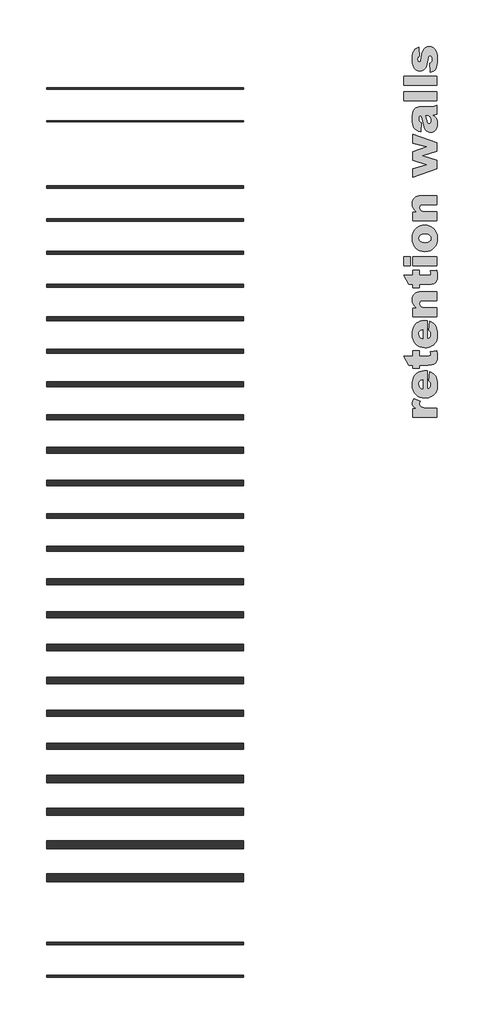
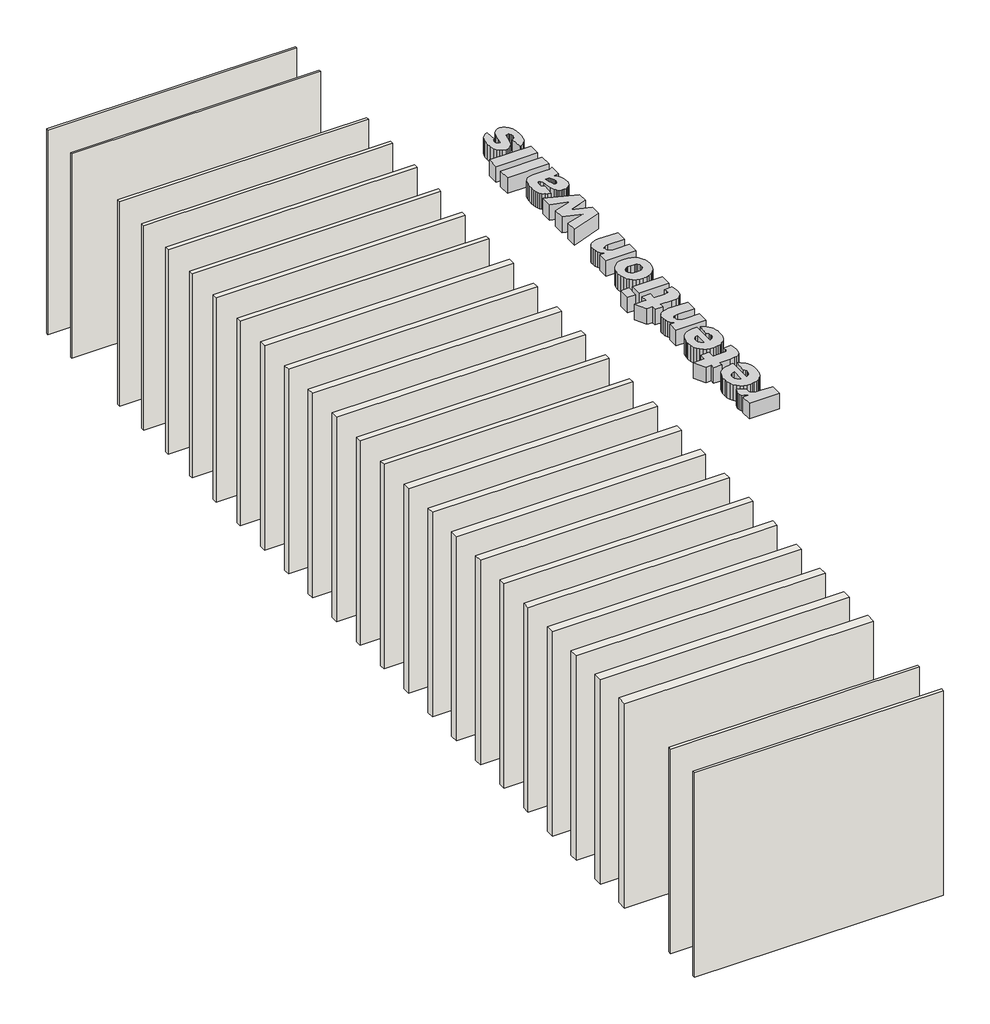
# One storey: 26 walls, 1 proxy.
"""IFC4 building model written with IfcOpenShell, lengths in millimetres."""

from ifc_helpers import new_model, si_unit, origin, origin_with_axes, place, context, project, spatial, polyline, outline, extrude, element, save

model = new_model("IFC4")

# Units and contexts
model_context = context("Model", 3, world=origin())
ifc_project = project(units=[si_unit("LENGTHUNIT", "METRE", prefix="MILLI")], contexts=[model_context])

# Site, building, storey
site = spatial("IfcSite", under=ifc_project)
building = spatial("IfcBuilding", under=site)
storey = spatial("IfcBuildingStorey", under=building, Name="faay_bottom_view_color", Elevation=0.0)

# Proxy
placement = place(None, origin())
element("IfcBuildingElementProxy", 1, Name="500 Arial Black", ObjectType="500 Arial Black", at=placement, inside=storey, context=model_context, shape_type="SweptSolid", body=[
    extrude(outline(polyline([(13408.2512641, 13687.5400867), (13408.2512641, 13815.4506259), (13466.6152347, 13815.4506259), (13433.7759271, 13834.6180585), (13413.0766317, 13854.4365328), (13402.1046648, 13876.9357668), (13398.4473425, 13904.1454788), (13403.5790827, 13936.5443759), (13418.9743033, 13971.8538122), (13516.5539602, 13928.5020965), (13508.8563499, 13906.2900867), (13506.2904798, 13889.2864102), (13511.9583719, 13864.8149029), (13528.9620484, 13846.5474396), (13548.4454277, 13837.0307423), (13574.8796342, 13830.2331014), (13608.2646679, 13826.1545168), (13648.6005288, 13824.7949886), (13770.9963621, 13824.7949886), (13770.9963621, 13687.5400867), (13408.2512641, 13687.5400867)])), origin_with_axes(), (0.0, 0.0, 1.0), 200.0),
    extrude(outline(polyline([(13623.9375386, 14393.4224396), (13623.9375386, 14118.9126357), (13647.336742, 14124.9634935), (13663.9191562, 14136.0694984), (13678.0505901, 14158.2432117), (13682.761068, 14186.1614102), (13680.5015704, 14205.2331014), (13673.7230778, 14223.2324886), (13653.3493033, 14246.3636161), (13663.1532249, 14383.6185181), (13692.4070162, 14367.5100239), (13717.2088315, 14349.8217962), (13737.5586706, 14330.5538352), (13753.4565337, 14309.7061406), (13765.4194243, 14285.7085533), (13773.9643462, 14256.9909139), (13779.0912993, 14223.5532224), (13780.8002837, 14185.3954788), (13775.6685435, 14122.703996), (13769.2538682, 14096.9591277), (13760.2733229, 14074.9481749), (13748.5067022, 14055.6658526), (13733.7338008, 14038.1068759), (13715.9546189, 14022.2712448), (13695.1691562, 14008.1589592), (13671.8944166, 13996.5646731), (13646.6474038, 13988.2830401), (13619.4281176, 13983.3140603), (13590.2365582, 13981.6577337), (13549.4554997, 13984.9943223), (13512.7434516, 13995.0040879), (13480.1004139, 14011.6870306), (13451.5263866, 14035.0431504), (13428.3043048, 14064.2777935), (13411.7171035, 14098.596306), (13401.7647828, 14137.9986881), (13398.4473425, 14182.4849396), (13399.9313345, 14218.6225392), (13404.3833106, 14250.7485732), (13411.8032708, 14278.8630416), (13422.1912151, 14302.9659445), (13435.3939571, 14323.7466201), (13451.2583106, 14341.8944065), (13469.7842757, 14357.4093039), (13490.9718523, 14370.2913122), (13515.1848578, 14380.4111804), (13542.7871097, 14387.6396578), (13573.7786078, 14391.9767442), (13608.1593523, 14393.4224396), (13623.9375386, 14393.4224396)]), holes=[polyline([(13555.3100876, 14256.1675377), (13528.2344136, 14248.6805585), (13510.1201366, 14234.4916798), (13499.8949528, 14214.1370536), (13496.4865582, 14188.1528318), (13501.6182984, 14158.396398), (13517.013519, 14135.3035671), (13533.0214847, 14124.925197), (13555.3100876, 14119.2190083), (13555.3100876, 14256.1675377)])]), origin_with_axes(), (0.0, 0.0, 1.0), 200.0),
    extrude(outline(polyline([(13270.9963621, 14618.9126357), (13408.2512641, 14618.9126357), (13408.2512641, 14697.3440083), (13506.2904798, 14697.3440083), (13506.2904798, 14618.9126357), (13639.1029798, 14618.9126357), (13658.9788989, 14619.9849396), (13670.8125386, 14623.2018514), (13679.7739356, 14632.2398416), (13682.761068, 14646.1797926), (13680.4632739, 14663.8728073), (13673.5698915, 14687.5400867), (13769.6176856, 14697.3440083), (13778.0046342, 14648.630773), (13780.8002837, 14603.2876357), (13777.4110374, 14559.3614715), (13767.2432984, 14528.68592), (13750.1630288, 14507.7759935), (13726.0361905, 14493.1467043), (13689.7884883, 14484.5299764), (13636.3456268, 14481.6577337), (13506.2904798, 14481.6577337), (13506.2904798, 14432.6381259), (13408.2512641, 14432.6381259), (13408.2512641, 14481.6577337), (13342.0747935, 14481.6577337), (13270.9963621, 14618.9126357)])), origin_with_axes(), (0.0, 0.0, 1.0), 200.0),
    extrude(outline(polyline([(13623.9375386, 15158.128322), (13623.9375386, 14883.6185181), (13647.336742, 14889.6693759), (13663.9191562, 14900.7753808), (13678.0505901, 14922.949094), (13682.761068, 14950.8672926), (13680.5015704, 14969.9389837), (13673.7230778, 14987.938371), (13653.3493033, 15011.0694984), (13663.1532249, 15148.3244004), (13692.4070162, 15132.2159062), (13717.2088315, 15114.5276786), (13737.5586706, 15095.2597175), (13753.4565337, 15074.412023), (13765.4194243, 15050.4144356), (13773.9643462, 15021.6967962), (13779.0912993, 14988.2591048), (13780.8002837, 14950.1013612), (13775.6685435, 14887.4098783), (13769.2538682, 14861.6650101), (13760.2733229, 14839.6540573), (13748.5067022, 14820.371735), (13733.7338008, 14802.8127583), (13715.9546189, 14786.9771271), (13695.1691562, 14772.8648416), (13671.8944166, 14761.2705554), (13646.6474038, 14752.9889225), (13619.4281176, 14748.0199427), (13590.2365582, 14746.3636161), (13549.4554997, 14749.7002046), (13512.7434516, 14759.7099703), (13480.1004139, 14776.392913), (13451.5263866, 14799.7490328), (13428.3043048, 14828.9836758), (13411.7171035, 14863.3021884), (13401.7647828, 14902.7045704), (13398.4473425, 14947.190822), (13399.9313345, 14983.3284215), (13404.3833106, 15015.4544556), (13411.8032708, 15043.568924), (13422.1912151, 15067.6718269), (13435.3939571, 15088.4525024), (13451.2583106, 15106.6002889), (13469.7842757, 15122.1151863), (13490.9718523, 15134.9971945), (13515.1848578, 15145.1170628), (13542.7871097, 15152.3455401), (13573.7786078, 15156.6826265), (13608.1593523, 15158.128322), (13623.9375386, 15158.128322)]), holes=[polyline([(13555.3100876, 15020.87342), (13528.2344136, 15013.3864408), (13510.1201366, 14999.1975622), (13499.8949528, 14978.8429359), (13496.4865582, 14952.8587141), (13501.6182984, 14923.1022803), (13517.013519, 14900.0094494), (13533.0214847, 14889.6310793), (13555.3100876, 14883.9248906), (13555.3100876, 15020.87342)])]), origin_with_axes(), (0.0, 0.0, 1.0), 200.0),
    extrude(outline(polyline([(13408.2512641, 15216.9518514), (13408.2512641, 15344.7092043), (13465.696117, 15344.7092043), (13434.6950447, 15373.986931), (13413.9957494, 15403.6093269), (13402.3344442, 15436.6401173), (13398.4473425, 15476.1430279), (13400.6015245, 15503.4532684), (13407.0640704, 15527.6327644), (13417.8349804, 15548.6815159), (13432.9142543, 15566.599523), (13452.493375, 15580.9080784), (13476.7638253, 15591.1284752), (13505.7256054, 15597.2607132), (13539.3787151, 15599.3047926), (13770.9963621, 15599.3047926), (13770.9963621, 15462.0498906), (13569.4032249, 15462.0498906), (13539.9723119, 15458.7946823), (13520.6133964, 15449.0290573), (13509.8712089, 15433.4040573), (13506.2904798, 15412.5707239), (13511.1158474, 15388.9991859), (13525.5919503, 15370.3679053), (13537.1670882, 15363.2974013), (13552.5910312, 15358.2470413), (13594.9853327, 15354.2067533), (13770.9963621, 15354.2067533), (13770.9963621, 15216.9518514), (13408.2512641, 15216.9518514)])), origin_with_axes(), (0.0, 0.0, 1.0), 200.0),
    extrude(outline(polyline([(13270.9963621, 15844.4028318), (13408.2512641, 15844.4028318), (13408.2512641, 15922.8342043), (13506.2904798, 15922.8342043), (13506.2904798, 15844.4028318), (13639.1029798, 15844.4028318), (13658.9788989, 15845.4751357), (13670.8125386, 15848.6920475), (13679.7739356, 15857.7300377), (13682.761068, 15871.6699886), (13680.4632739, 15889.3630033), (13673.5698915, 15913.0302828), (13769.6176856, 15922.8342043), (13778.0046342, 15874.120969), (13780.8002837, 15828.7778318), (13777.4110374, 15784.8516676), (13767.2432984, 15754.1761161), (13750.1630288, 15733.2661896), (13726.0361905, 15718.6369004), (13689.7884883, 15710.0201725), (13636.3456268, 15707.1479298), (13506.2904798, 15707.1479298), (13506.2904798, 15658.128322), (13408.2512641, 15658.128322), (13408.2512641, 15707.1479298), (13342.0747935, 15707.1479298), (13270.9963621, 15844.4028318)])), origin_with_axes(), (0.0, 0.0, 1.0), 200.0),
    extrude(outline(polyline([(13270.9963621, 15991.4616553), (13270.9963621, 16128.7165573), (13369.0355778, 16128.7165573), (13369.0355778, 15991.4616553), (13270.9963621, 15991.4616553)])), origin_with_axes(), (0.0, 0.0, 1.0), 200.0),
    extrude(outline(polyline([(13408.2512641, 15991.4616553), (13408.2512641, 16128.7165573), (13770.9963621, 16128.7165573), (13770.9963621, 15991.4616553), (13408.2512641, 15991.4616553)])), origin_with_axes(), (0.0, 0.0, 1.0), 200.0),
    extrude(outline(polyline([(13590.696117, 16207.1479298), (13550.6474804, 16210.5228149), (13514.2944626, 16220.6474703), (13481.6370637, 16237.5218958), (13452.6752837, 16261.1460916), (13428.9505594, 16290.5243468), (13412.0043278, 16324.6609507), (13401.8365888, 16363.5559032), (13398.4473425, 16407.2092043), (13402.4301856, 16456.5351847), (13414.3787151, 16499.4273416), (13434.2929307, 16535.8856749), (13462.1728327, 16565.9101847), (13489.3155257, 16584.8095413), (13519.4262028, 16598.3090818), (13552.5048639, 16606.408806), (13588.5515092, 16609.1087141), (13628.8490735, 16605.7625515), (13665.3361293, 16595.7240634), (13698.0126764, 16578.99325), (13726.8787151, 16555.5701112), (13750.4694013, 16526.2397267), (13767.3198915, 16491.7871761), (13777.4301856, 16452.2124595), (13780.8002837, 16407.5155769), (13778.0046342, 16367.3329022), (13769.6176856, 16331.1905156), (13755.6394381, 16299.088417), (13736.0698915, 16271.0266063), (13706.1889939, 16243.0796853), (13671.9997322, 16223.1175989), (13633.5021066, 16211.1403471), (13590.696117, 16207.1479298)]), holes=[polyline([(13589.4706268, 16344.4028318), (13630.9075141, 16348.9409752), (13646.9729246, 16354.6136544), (13659.9363131, 16362.5554053), (13677.0548793, 16383.0632178), (13682.761068, 16408.2815083), (13677.1314724, 16433.652985), (13660.2426856, 16454.0076112), (13647.2888713, 16461.8153241), (13630.9458106, 16467.3922619), (13588.0919503, 16471.8538122), (13547.727367, 16467.3539654), (13531.968329, 16461.7291568), (13519.1581268, 16453.8544249), (13502.1544503, 16433.6912815), (13496.4865582, 16409.2006259), (13502.2310435, 16383.4844801), (13519.4644994, 16362.7085916), (13532.4566103, 16354.6998217), (13548.4550018, 16348.9792717), (13589.4706268, 16344.4028318)])]), origin_with_axes(), (0.0, 0.0, 1.0), 200.0),
    extrude(outline(polyline([(13408.2512641, 16677.7361651), (13408.2512641, 16805.4935181), (13465.696117, 16805.4935181), (13434.6950447, 16834.7712448), (13413.9957494, 16864.3936406), (13402.3344442, 16897.424431), (13398.4473425, 16936.9273416), (13400.6015245, 16964.2375821), (13407.0640704, 16988.4170781), (13417.8349804, 17009.4658296), (13432.9142543, 17027.3838367), (13452.493375, 17041.6923921), (13476.7638253, 17051.9127889), (13505.7256054, 17058.0450269), (13539.3787151, 17060.0891063), (13770.9963621, 17060.0891063), (13770.9963621, 16922.8342043), (13569.4032249, 16922.8342043), (13539.9723119, 16919.578996), (13520.6133964, 16909.813371), (13509.8712089, 16894.188371), (13506.2904798, 16873.3550377), (13511.1158474, 16849.7834997), (13525.5919503, 16831.152219), (13537.1670882, 16824.0817151), (13552.5910312, 16819.0313551), (13594.9853327, 16814.9910671), (13770.9963621, 16814.9910671), (13770.9963621, 16677.7361651), (13408.2512641, 16677.7361651)])), origin_with_axes(), (0.0, 0.0, 1.0), 200.0),
    extrude(outline(polyline([(13408.2512641, 17334.5989102), (13408.2512641, 17469.8623906), (13621.1801856, 17528.0731749), (13408.2512641, 17597.1601847), (13408.2512641, 17727.8280769), (13621.946117, 17799.2128808), (13408.2512641, 17856.3513612), (13408.2512641, 17991.4616553), (13770.9963621, 17858.8023416), (13770.9963621, 17735.9469494), (13552.7059209, 17663.0302828), (13770.9963621, 17592.2582239), (13770.9963621, 17468.4837141), (13408.2512641, 17334.5989102)])), origin_with_axes(), (0.0, 0.0, 1.0), 200.0),
    extrude(outline(polyline([(13535.7022445, 18167.9322435), (13525.8983229, 18030.6773416), (13490.3399589, 18039.6770352), (13463.3217298, 18051.9702337), (13442.0479859, 18068.9739102), (13423.7230778, 18092.1050377), (13413.09578, 18114.3361958), (13405.1109454, 18143.652219), (13400.1132432, 18177.8702031), (13398.4473425, 18214.8072435), (13400.2089847, 18270.1840818), (13405.4939111, 18313.4592043), (13416.3318401, 18347.581447), (13434.7524896, 18375.4996455), (13453.4412151, 18391.1054972), (13478.5637641, 18402.9965818), (13506.2521832, 18410.5218575), (13532.638519, 18413.0302828), (13693.4841072, 18413.0302828), (13733.7720974, 18416.2471945), (13770.9963621, 18430.4935181), (13770.9963621, 18298.9065083), (13743.6526121, 18288.5664347), (13714.1642543, 18283.7410671), (13742.6951979, 18257.469621), (13761.8051856, 18231.3513612), (13776.0515092, 18192.7867166), (13780.8002837, 18148.4775867), (13778.9620484, 18119.0370996), (13773.4473425, 18093.3688244), (13764.256166, 18071.4727613), (13751.388519, 18053.3489102), (13735.8209638, 18039.1408833), (13718.5300631, 18028.9922926), (13699.5158168, 18022.9031382), (13678.7782249, 18020.87342), (13659.457606, 18022.3382638), (13641.9369258, 18026.732795), (13626.2161844, 18034.0570138), (13612.2953817, 18044.31092), (13600.1074988, 18058.4327797), (13589.5855165, 18077.514045), (13573.5392543, 18130.5547926), (13551.8633964, 18228.3642288), (13535.7022445, 18275.7753808), (13517.2050018, 18273.4009935), (13505.2181758, 18266.2778318), (13498.6694626, 18253.2187019), (13496.4865582, 18233.0364102), (13498.9758352, 18206.2671087), (13506.443666, 18187.2337141), (13517.6645606, 18176.4340818), (13535.7022445, 18167.9322435)]), holes=[polyline([(13604.3296954, 18275.7753808), (13618.1164602, 18219.5560181), (13626.6182984, 18187.0039347), (13634.9669503, 18169.0045475), (13644.1198302, 18160.8473783), (13654.4216072, 18158.128322), (13665.8148364, 18160.8282301), (13674.8719749, 18168.9279543), (13680.7887947, 18182.2360119), (13682.761068, 18200.56092), (13680.6164602, 18221.6814776), (13674.1826366, 18241.2318759), (13664.6659393, 18257.2781382), (13653.2727102, 18267.8862877), (13639.0838315, 18273.8031075), (13621.1801856, 18275.7753808), (13604.3296954, 18275.7753808)])]), origin_with_axes(), (0.0, 0.0, 1.0), 200.0),
    extrude(outline(polyline([(13270.9963621, 18501.2655769), (13270.9963621, 18638.5204788), (13770.9963621, 18638.5204788), (13770.9963621, 18501.2655769), (13270.9963621, 18501.2655769)])), origin_with_axes(), (0.0, 0.0, 1.0), 200.0),
    extrude(outline(polyline([(13270.9963621, 18736.5596945), (13270.9963621, 18873.8145965), (13770.9963621, 18873.8145965), (13770.9963621, 18736.5596945), (13270.9963621, 18736.5596945)])), origin_with_axes(), (0.0, 0.0, 1.0), 200.0),
    extrude(outline(polyline([(13672.9571464, 18932.6381259), (13663.1532249, 19069.8930279), (13681.2675018, 19079.9650254), (13693.3309209, 19093.3305279), (13700.1094136, 19110.8703563), (13702.3689111, 19133.4653318), (13699.4200753, 19157.7070597), (13690.573568, 19175.8979298), (13680.7696464, 19184.6295475), (13668.821117, 19187.5400867), (13655.7619871, 19184.8976234), (13645.9963621, 19176.9702337), (13639.6774283, 19159.1623293), (13632.0564111, 19120.750871), (13620.0312886, 19058.9785058), (13608.7720974, 19019.4947435), (13594.1428082, 18993.3764837), (13572.0073915, 18971.7006259), (13544.3189724, 18957.1096333), (13513.0306758, 18952.245969), (13479.2531023, 18957.5308955), (13450.5306758, 18973.3856749), (13427.6484761, 18998.4890757), (13411.3915827, 19031.5198661), (13401.6834026, 19074.8524335), (13398.4473425, 19130.8611651), (13400.9557677, 19187.9804972), (13408.4810435, 19227.90467), (13421.2720974, 19256.6462448), (13439.5778572, 19280.2177828), (13464.3365888, 19299.4043636), (13496.4865582, 19314.9910671), (13506.2904798, 19177.7361651), (13494.0738744, 19171.800197), (13485.6103327, 19162.8770965), (13479.0616195, 19147.2520965), (13476.8787151, 19128.563371), (13478.9275815, 19110.9469494), (13485.0741807, 19098.8452337), (13494.1696158, 19091.8369617), (13505.0649896, 19089.500871), (13516.5156636, 19091.4156994), (13524.826019, 19097.1601847), (13531.2215459, 19114.4319372), (13536.9277347, 19150.9285671), (13546.1572077, 19211.7052215), (13558.5269994, 19254.6356749), (13575.4540827, 19284.6601847), (13598.3554307, 19306.7190083), (13625.5076979, 19320.2759935), (13655.1875386, 19324.7949886), (13686.131166, 19319.969621), (13716.1556758, 19305.4935181), (13742.7143462, 19280.639045), (13763.2604552, 19244.6785671), (13776.4153266, 19195.6589592), (13780.8002837, 19131.6270965), (13779.0482157, 19084.7137999), (13773.7920116, 19045.0768514), (13765.0316715, 19012.7162509), (13752.7671954, 18987.6319984), (13737.2666593, 18968.1103226), (13718.7981391, 18952.4374519), (13697.3616348, 18940.6133863), (13672.9571464, 18932.6381259)])), origin_with_axes(), (0.0, 0.0, 1.0), 200.0),
])

# Walls
element("IfcWall", 2, ObjectType="Faay_22_PG90_WR1x", at=placement, inside=storey, context=model_context, shape_type="SweptSolid", body=[
    extrude(outline(polyline([(10830.9340793, 8643.8247672), (7830.9340793, 8643.8247672), (7830.9340793, 8733.8247672), (10830.9340793, 8733.8247672), (10830.9340793, 8643.8247672)])), origin_with_axes(), (0.0, 0.0, 1.0), 2605.0),
])
element("IfcWall", 3, ObjectType="Faay_22_VP35_", at=placement, inside=storey, context=model_context, shape_type="SweptSolid", body=[
    extrude(outline(polyline([(10830.9340793, 5671.3247672), (7830.9340793, 5671.3247672), (7830.9340793, 5706.3247672), (10830.9340793, 5706.3247672), (10830.9340793, 5671.3247672)])), origin_with_axes(), (0.0, 0.0, 1.0), 2605.0),
])
element("IfcWall", 4, ObjectType="Faay_22_PG70_GRE_", at=placement, inside=storey, context=model_context, shape_type="SweptSolid", body=[
    extrude(outline(polyline([(10830.9340793, 10138.8247672), (7830.9340793, 10138.8247672), (7830.9340793, 10238.8247672), (10830.9340793, 10238.8247672), (10830.9340793, 10138.8247672)])), origin_with_axes(), (0.0, 0.0, 1.0), 2605.0),
])
element("IfcWall", 5, ObjectType="Faay_22_PG60_", at=placement, inside=storey, context=model_context, shape_type="SweptSolid", body=[
    extrude(outline(polyline([(10830.9340793, 15158.8247672), (7830.9340793, 15158.8247672), (7830.9340793, 15218.8247672), (10830.9340793, 15218.8247672), (10830.9340793, 15158.8247672)])), origin_with_axes(), (0.0, 0.0, 1.0), 2605.0),
])
element("IfcWall", 6, ObjectType="Faay_22_PG50_", at=placement, inside=storey, context=model_context, shape_type="SweptSolid", body=[
    extrude(outline(polyline([(10830.9340793, 16163.8247672), (7830.9340793, 16163.8247672), (7830.9340793, 16213.8247672), (10830.9340793, 16213.8247672), (10830.9340793, 16163.8247672)])), origin_with_axes(), (0.0, 0.0, 1.0), 2605.0),
])
element("IfcWall", 7, ObjectType="Faay_22_PG40_", at=placement, inside=storey, context=model_context, shape_type="SweptSolid", body=[
    extrude(outline(polyline([(10830.9340793, 17168.8247672), (7830.9340793, 17168.8247672), (7830.9340793, 17208.8247672), (10830.9340793, 17208.8247672), (10830.9340793, 17168.8247672)])), origin_with_axes(), (0.0, 0.0, 1.0), 2605.0),
])
element("IfcWall", 8, ObjectType="Faay_22_PG60_XPS_WR1x", at=placement, inside=storey, context=model_context, shape_type="SweptSolid", body=[
    extrude(outline(polyline([(10830.9340793, 13648.8247672), (7830.9340793, 13648.8247672), (7830.9340793, 13728.8247672), (10830.9340793, 13728.8247672), (10830.9340793, 13648.8247672)])), origin_with_axes(), (0.0, 0.0, 1.0), 2605.0),
])
element("IfcWall", 9, ObjectType="Faay_22_PG60_GRE_", at=placement, inside=storey, context=model_context, shape_type="SweptSolid", body=[
    extrude(outline(polyline([(10830.9340793, 13143.8247672), (7830.9340793, 13143.8247672), (7830.9340793, 13233.8247672), (10830.9340793, 13233.8247672), (10830.9340793, 13143.8247672)])), origin_with_axes(), (0.0, 0.0, 1.0), 2605.0),
])
element("IfcWall", 10, ObjectType="Faay_22_PG70_", at=placement, inside=storey, context=model_context, shape_type="SweptSolid", body=[
    extrude(outline(polyline([(10830.9340793, 12153.8247672), (7830.9340793, 12153.8247672), (7830.9340793, 12223.8247672), (10830.9340793, 12223.8247672), (10830.9340793, 12153.8247672)])), origin_with_axes(), (0.0, 0.0, 1.0), 2605.0),
])
element("IfcWall", 11, ObjectType="Faay_22_PG70_XPS_ WR1x", at=placement, inside=storey, context=model_context, shape_type="SweptSolid", body=[
    extrude(outline(polyline([(10830.9340793, 10643.8247672), (7830.9340793, 10643.8247672), (7830.9340793, 10733.8247672), (10830.9340793, 10733.8247672), (10830.9340793, 10643.8247672)])), origin_with_axes(), (0.0, 0.0, 1.0), 2605.0),
])
element("IfcWall", 12, ObjectType="Faay_22_PG90_XPS_WR1x", at=placement, inside=storey, context=model_context, shape_type="SweptSolid", body=[
    extrude(outline(polyline([(10830.9340793, 7633.8247672), (7830.9340793, 7633.8247672), (7830.9340793, 7743.8247672), (10830.9340793, 7743.8247672), (10830.9340793, 7633.8247672)])), origin_with_axes(), (0.0, 0.0, 1.0), 2605.0),
])
element("IfcWall", 13, ObjectType="Faay_22_PG90_GRE_WR1x", at=placement, inside=storey, context=model_context, shape_type="SweptSolid", body=[
    extrude(outline(polyline([(10830.9340793, 6628.8247672), (7830.9340793, 6628.8247672), (7830.9340793, 6748.8247672), (10830.9340793, 6748.8247672), (10830.9340793, 6628.8247672)])), origin_with_axes(), (0.0, 0.0, 1.0), 2605.0),
])
element("IfcWall", 14, ObjectType="Faay_22_GP22_", at=placement, inside=storey, context=model_context, shape_type="SweptSolid", body=[
    extrude(outline(polyline([(10830.9340793, 18677.8247672), (7830.9340793, 18677.8247672), (7830.9340793, 18699.8247672), (10830.9340793, 18699.8247672), (10830.9340793, 18677.8247672)])), origin_with_axes(), (0.0, 0.0, 1.0), 2605.0),
])
element("IfcWall", 15, ObjectType="Faay_22_GP22_WR1x", at=placement, inside=storey, context=model_context, shape_type="SweptSolid", body=[
    extrude(outline(polyline([(10830.9340793, 18177.8247672), (7830.9340793, 18177.8247672), (7830.9340793, 18199.8247672), (10830.9340793, 18199.8247672), (10830.9340793, 18177.8247672)])), origin_with_axes(), (0.0, 0.0, 1.0), 2605.0),
])
element("IfcWall", 16, ObjectType="Faay_22_PG60_WR1x", at=placement, inside=storey, context=model_context, shape_type="SweptSolid", body=[
    extrude(outline(polyline([(10830.9340793, 14658.8247672), (7830.9340793, 14658.8247672), (7830.9340793, 14718.8247672), (10830.9340793, 14718.8247672), (10830.9340793, 14658.8247672)])), origin_with_axes(), (0.0, 0.0, 1.0), 2605.0),
])
element("IfcWall", 17, ObjectType="Faay_22_PG50_WR1x", at=placement, inside=storey, context=model_context, shape_type="SweptSolid", body=[
    extrude(outline(polyline([(10830.9340793, 15663.8247672), (7830.9340793, 15663.8247672), (7830.9340793, 15713.8247672), (10830.9340793, 15713.8247672), (10830.9340793, 15663.8247672)])), origin_with_axes(), (0.0, 0.0, 1.0), 2605.0),
])
element("IfcWall", 18, ObjectType="Faay_22_PG40_WR1x", at=placement, inside=storey, context=model_context, shape_type="SweptSolid", body=[
    extrude(outline(polyline([(10830.9340793, 16668.8247672), (7830.9340793, 16668.8247672), (7830.9340793, 16708.8247672), (10830.9340793, 16708.8247672), (10830.9340793, 16668.8247672)])), origin_with_axes(), (0.0, 0.0, 1.0), 2605.0),
])
element("IfcWall", 19, ObjectType="Faay_22_PG60_XPS_", at=placement, inside=storey, context=model_context, shape_type="SweptSolid", body=[
    extrude(outline(polyline([(10830.9340793, 14148.8247672), (7830.9340793, 14148.8247672), (7830.9340793, 14228.8247672), (10830.9340793, 14228.8247672), (10830.9340793, 14148.8247672)])), origin_with_axes(), (0.0, 0.0, 1.0), 2605.0),
])
element("IfcWall", 20, ObjectType="Faay_22_PG60_GRE_WR1x", at=placement, inside=storey, context=model_context, shape_type="SweptSolid", body=[
    extrude(outline(polyline([(10830.9340793, 12643.8247672), (7830.9340793, 12643.8247672), (7830.9340793, 12733.8247672), (10830.9340793, 12733.8247672), (10830.9340793, 12643.8247672)])), origin_with_axes(), (0.0, 0.0, 1.0), 2605.0),
])
element("IfcWall", 21, ObjectType="Faay_22_PG70_WR1x", at=placement, inside=storey, context=model_context, shape_type="SweptSolid", body=[
    extrude(outline(polyline([(10830.9340793, 11653.8247672), (7830.9340793, 11653.8247672), (7830.9340793, 11723.8247672), (10830.9340793, 11723.8247672), (10830.9340793, 11653.8247672)])), origin_with_axes(), (0.0, 0.0, 1.0), 2605.0),
])
element("IfcWall", 22, ObjectType="Faay_22_PG90_", at=placement, inside=storey, context=model_context, shape_type="SweptSolid", body=[
    extrude(outline(polyline([(10830.9340793, 9143.8247672), (7830.9340793, 9143.8247672), (7830.9340793, 9233.8247672), (10830.9340793, 9233.8247672), (10830.9340793, 9143.8247672)])), origin_with_axes(), (0.0, 0.0, 1.0), 2605.0),
])
element("IfcWall", 23, ObjectType="Faay_22_PG70_GRE_WR1x", at=placement, inside=storey, context=model_context, shape_type="SweptSolid", body=[
    extrude(outline(polyline([(10830.9340793, 9638.8247672), (7830.9340793, 9638.8247672), (7830.9340793, 9738.8247672), (10830.9340793, 9738.8247672), (10830.9340793, 9638.8247672)])), origin_with_axes(), (0.0, 0.0, 1.0), 2605.0),
])
element("IfcWall", 24, ObjectType="Faay_22_PG70_XPS_", at=placement, inside=storey, context=model_context, shape_type="SweptSolid", body=[
    extrude(outline(polyline([(10830.9340793, 11143.8247672), (7830.9340793, 11143.8247672), (7830.9340793, 11233.8247672), (10830.9340793, 11233.8247672), (10830.9340793, 11143.8247672)])), origin_with_axes(), (0.0, 0.0, 1.0), 2605.0),
])
element("IfcWall", 25, ObjectType="Faay_22_PG90_XPS_", at=placement, inside=storey, context=model_context, shape_type="SweptSolid", body=[
    extrude(outline(polyline([(10830.9340793, 8133.8247672), (7830.9340793, 8133.8247672), (7830.9340793, 8243.8247672), (10830.9340793, 8243.8247672), (10830.9340793, 8133.8247672)])), origin_with_axes(), (0.0, 0.0, 1.0), 2605.0),
])
element("IfcWall", 26, ObjectType="Faay_22_PG90_GRE_", at=placement, inside=storey, context=model_context, shape_type="SweptSolid", body=[
    extrude(outline(polyline([(10830.9340793, 7128.8247672), (7830.9340793, 7128.8247672), (7830.9340793, 7248.8247672), (10830.9340793, 7248.8247672), (10830.9340793, 7128.8247672)])), origin_with_axes(), (0.0, 0.0, 1.0), 2605.0),
])
element("IfcWall", 27, ObjectType="Faay_22_VP35_WR1x", at=placement, inside=storey, context=model_context, shape_type="SweptSolid", body=[
    extrude(outline(polyline([(10830.9340793, 5171.3247672), (7830.9340793, 5171.3247672), (7830.9340793, 5206.3247672), (10830.9340793, 5206.3247672), (10830.9340793, 5171.3247672)])), origin_with_axes(), (0.0, 0.0, 1.0), 2605.0),
])

save(model, "model.ifc")
